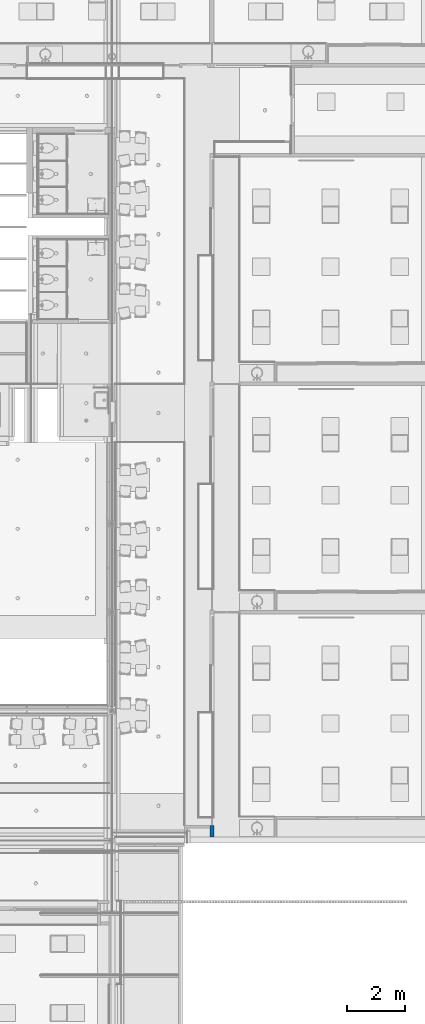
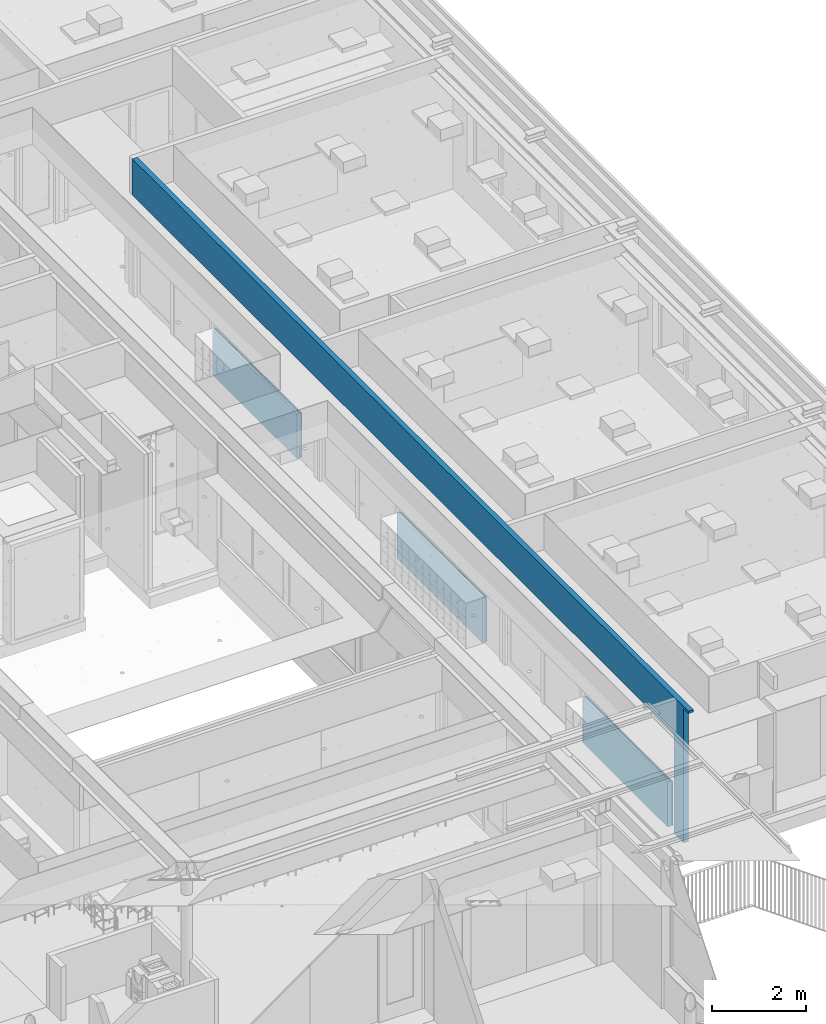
# One storey, part 31 of 260: 1 wall, 15 openings.
"""IFC2X3 building model written with IfcOpenShell, lengths in millimetres."""

from ifc_helpers import new_model, entity, si_unit, converted_unit, derived_unit, money_unit, direction, frame, origin_with_axes, place, context, subcontext, project, spatial, faceted_brep, material, type_object, element, save


model = new_model("IFC2X3")

# Units and contexts
model_context = context("Model", 3, precision=0.01, world=origin_with_axes(), true_north=direction((0.0, 1.0)))
plan_context = context("Plan", 3, precision=0.01, world=origin_with_axes(), true_north=direction((0.0, 1.0)))
body_context = subcontext(model_context, "Body", "Model", "MODEL_VIEW")
ifc_project = project(units=[si_unit("LENGTHUNIT", "METRE", prefix="MILLI"), si_unit("AREAUNIT", "SQUARE_METRE"), si_unit("VOLUMEUNIT", "CUBIC_METRE"), converted_unit("PLANEANGLEUNIT", "DEGREE", entity("IfcPlaneAngleMeasure", 0.0174532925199), si_unit("PLANEANGLEUNIT", "RADIAN"), dimensions=[0, 0, 0, 0, 0, 0, 0]), money_unit("EUR"), converted_unit("TIMEUNIT", "Year", entity("IfcTimeMeasure", 31556926.0), si_unit("TIMEUNIT", "SECOND"), dimensions=[0, 0, 1, 0, 0, 0, 0]), si_unit("MASSUNIT", "GRAM", prefix="KILO"), si_unit("THERMODYNAMICTEMPERATUREUNIT", "DEGREE_CELSIUS"), si_unit("LUMINOUSINTENSITYUNIT", "LUMEN"), si_unit("ENERGYUNIT", "JOULE", prefix="MEGA"), derived_unit("THERMALCONDUCTANCEUNIT", [(si_unit("POWERUNIT", "WATT"), 1), (si_unit("LENGTHUNIT", "METRE"), -1), (si_unit("THERMODYNAMICTEMPERATUREUNIT", "KELVIN"), -1)]), derived_unit("SPECIFICHEATCAPACITYUNIT", [(si_unit("ENERGYUNIT", "JOULE"), 1), (si_unit("MASSUNIT", "GRAM", prefix="KILO"), -1), (si_unit("THERMODYNAMICTEMPERATUREUNIT", "KELVIN"), -1)]), derived_unit("MASSDENSITYUNIT", [(si_unit("MASSUNIT", "GRAM", prefix="KILO"), 1), (si_unit("VOLUMEUNIT", "CUBIC_METRE"), -1)])], contexts=[model_context, plan_context])

# Site, building, storey
site_placement = place(None, origin_with_axes())
site = spatial("IfcSite", under=ifc_project, at=site_placement, Name="Site", CompositionType="ELEMENT")
building_placement = place(site_placement, origin_with_axes())
building = spatial("IfcBuilding", under=site, at=building_placement, Name="Naam gebouw", CompositionType="ELEMENT")
storey_placement = place(building_placement, frame((0.0, 0.0, 3960.0), z_axis=(0.0, 0.0, 1.0), x_axis=(1.0, 0.0, 0.0)))
storey = spatial("IfcBuildingStorey", under=building, at=storey_placement, Name="verdieping", CompositionType="ELEMENT", Elevation=3960.0)

# Wall, openings
ifc_material = material(Name="ALG - LICHTE SCHEIDINGSWAND")
wall_type = type_object("IfcWallType", Name="ALG LSW 125 125", PredefinedType="NOTDEFINED")
wall_placement = place(storey_placement, frame((48075.0, 12200.0000472, 0.0), z_axis=(0.0, 0.0, 1.0), x_axis=(0.0, 1.0, 0.0)))
wall = element("IfcWall", 1, at=wall_placement, inside=storey, type_object=wall_type, material=ifc_material, Name="22_GF 125 ECO DGS/2.75.2A", context=body_context, shape_type="Brep", body=[
    faceted_brep([(12305.4999528, 12.0, 1175.0), (8655.50135358, 12.0, 1175.0), (8655.50135358, 12.0, 0.0), (12305.4999528, 12.0, 0.0), (8665.49995276, 52.5, 1175.0), (8665.49995276, 21.9985991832, 1175.0), (12305.4999528, 52.5, 1175.0), (8665.49995276, 21.9985991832, 0.0), (12283.3930985, 68.9985991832, 0.0), (12305.3930985, 68.9985991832, 0.0), (12305.3930985, 125.0, 0.0), (12305.4999528, 125.0, 0.0), (8665.49995276, 125.0, 0.0), (12283.3930985, 125.0, 0.0), (12305.4999528, 125.0, 1200.0), (12305.4999528, 52.5, 1200.0), (8665.49995276, 52.5, 1178.0), (8665.49995276, 72.5, 1178.0), (8665.49995276, 125.0, 1178.0), (8643.49995276, 52.5, 1178.0), (8643.49995276, 52.5, 1200.0), (12283.3930985, 68.9985991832, 1178.0), (12305.3930985, 68.9985991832, 1178.0), (12305.3930985, 125.0, 1200.0), (12305.3930985, 72.5, 1178.0), (12305.3930985, 72.5, 1200.0), (12283.3930985, 125.0, 1178.0), (12283.3930985, 72.5, 1178.0), (8643.49995276, 72.5, 1200.0), (8643.49995276, 72.5, 1178.0)], [[[0, 1, 2, 3]], [[4, 5, 1, 0, 6]], [[7, 2, 1, 5]], [[8, 9, 10, 11, 3, 2, 7, 12, 13]], [[11, 14, 15, 6, 0, 3]], [[5, 4, 16, 17, 18, 12, 7]], [[19, 16, 4, 6, 15, 20]], [[9, 8, 21, 22]], [[23, 10, 9, 22, 24, 25]], [[11, 10, 23, 14]], [[12, 18, 26, 13]], [[13, 26, 27, 21, 8]], [[25, 28, 20, 15, 14, 23]], [[19, 29, 17, 16]], [[18, 17, 27, 26]], [[20, 28, 29, 19]], [[27, 24, 22, 21]], [[28, 25, 24, 27, 17, 29]]]),
    faceted_brep([(16580.5013536, 12.0, 0.0), (20230.4999528, 12.0, 0.0), (20230.4999528, 12.0, 1175.0), (16580.5013536, 12.0, 1175.0), (16590.4999528, 21.9985991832, 0.0), (16590.4999528, 125.0, 0.0), (20208.4999528, 125.0, 0.0), (20208.4999528, 68.9985991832, 0.0), (20230.4999528, 68.9985991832, 0.0), (20230.4999528, 68.9985991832, 1178.0), (20230.4999528, 72.5, 1178.0), (20230.4999528, 72.5, 1200.0), (20230.4999528, 52.5, 1200.0), (20230.4999528, 52.5, 1175.0), (16590.4999528, 52.5, 1175.0), (16590.4999528, 21.9985991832, 1175.0), (16590.4999528, 52.5, 1178.0), (16590.4999528, 72.5, 1178.0), (16590.4999528, 125.0, 1178.0), (20208.4999528, 125.0, 1178.0), (20208.4999528, 72.5, 1178.0), (20208.4999528, 68.9985991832, 1178.0), (16568.4999528, 72.5, 1178.0), (16568.4999528, 72.5, 1200.0), (16568.4999528, 52.5, 1200.0), (16568.4999528, 52.5, 1178.0)], [[[0, 1, 2, 3]], [[0, 4, 5, 6, 7, 8, 1]], [[8, 9, 10, 11, 12, 13, 2, 1]], [[2, 13, 14, 15, 3]], [[3, 15, 4, 0]], [[5, 4, 15, 14, 16, 17, 18]], [[18, 19, 6, 5]], [[6, 19, 20, 21, 7]], [[21, 9, 8, 7]], [[20, 10, 9, 21]], [[10, 20, 17, 22, 23, 11]], [[24, 12, 11, 23]], [[12, 24, 25, 16, 14, 13]], [[17, 16, 25, 22]], [[18, 17, 20, 19]], [[24, 23, 22, 25]]]),
    faceted_brep([(730.343674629, 12.0, 1175.0), (718.499952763, 0.156278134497, 1175.0), (718.499952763, 0.0, 1175.0), (730.343674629, 12.0, 0.0), (718.499952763, 0.156278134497, 0.0), (718.499952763, 0.0, 0.0)], [[[0, 1, 2]], [[1, 0, 3, 4]], [[2, 1, 4, 5]], [[5, 3, 0, 2]], [[3, 5, 4]]]),
    faceted_brep([(730.343674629, 12.0, 0.0), (4380.49995276, 12.0, 0.0), (4380.49995276, 12.0, 1175.0), (730.343674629, 12.0, 1175.0), (4380.34227381, 125.0, 0.0), (4380.49995276, 125.0, 0.0), (740.342273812, 21.9985991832, 0.0), (740.342273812, 125.0, 0.0), (4358.34227381, 125.0, 0.0), (4358.34227381, 68.9985991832, 0.0), (4380.34227381, 68.9985991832, 0.0), (4380.49995276, 52.5, 1200.0), (4380.49995276, 52.5, 1175.0), (4380.49995276, 125.0, 1178.0), (4380.49995276, 72.5, 1178.0), (4380.49995276, 72.5, 1200.0), (740.342273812, 52.5, 1175.0), (740.342273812, 21.9985991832, 1175.0), (4380.34227381, 125.0, 1178.0), (740.342273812, 52.5, 1178.0), (740.342273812, 72.5, 1178.0), (740.342273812, 125.0, 1178.0), (4358.34227381, 125.0, 1178.0), (4358.34227381, 72.5, 1178.0), (4358.34227381, 68.9985991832, 1178.0), (4380.34227381, 68.9985991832, 1178.0), (4380.34227381, 72.5, 1178.0), (718.499952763, 52.5, 1200.0), (718.499952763, 52.5, 1178.0), (718.499952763, 72.5, 1200.0), (718.499952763, 72.5, 1178.0)], [[[0, 1, 2, 3]], [[4, 5, 1, 0, 6, 7, 8, 9, 10]], [[11, 12, 2, 1, 5, 13, 14, 15]], [[3, 2, 12, 16, 17]], [[6, 0, 3, 17]], [[18, 13, 5, 4]], [[19, 20, 21, 7, 6, 17, 16]], [[8, 7, 21, 22]], [[8, 22, 23, 24, 9]], [[25, 10, 9, 24]], [[18, 4, 10, 25, 26]], [[16, 12, 11, 27, 28, 19]], [[26, 14, 13, 18]], [[29, 15, 14, 26, 23, 20, 30]], [[27, 11, 15, 29]], [[20, 19, 28, 30]], [[22, 21, 20, 23]], [[24, 23, 26, 25]], [[27, 29, 30, 28]]]),
    faceted_brep([(59.9937207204, 0.0, 0.0), (460.000027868, 0.0, 0.0), (460.000027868, 0.0, 2600.0), (460.000027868, 0.0, 2612.0), (23637.4999528, 0.0, 2612.0), (23637.4999528, 0.0, 3560.0), (-150.000009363, 0.0, 3560.0), (-150.000011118, 0.0, 3499.99997098), (59.8374336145, 0.0, 3499.99997098), (59.9937207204, 125.0, 0.0), (460.000027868, 125.0, 0.0), (460.000027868, 125.0, 2600.0), (460.000027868, 125.0, 2612.0), (23637.4999528, 125.0, 2612.0), (23637.4999528, 125.0, 3560.0), (-150.000009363, 125.0, 3560.0), (-150.000011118, 125.0, 3499.99997098), (59.8374336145, 125.0, 3499.99997098)], [[[0, 1, 2, 3, 4, 5, 6, 7, 8]], [[0, 9, 10, 1]], [[1, 10, 11, 2]], [[11, 12, 3, 2]], [[4, 3, 12, 13]], [[5, 4, 13, 14]], [[6, 5, 14, 15]], [[7, 6, 15, 16]], [[8, 7, 16, 17]], [[0, 8, 17, 9]], [[15, 14, 13, 12, 11, 10, 9, 17, 16]]]),
])
opening_1_placement = place(wall_placement, frame((23699.9999528, 0.0, 0.0), z_axis=(0.0, 0.0, 1.0), x_axis=(1.0, 0.0, 0.0)))
element("IfcOpeningElement", 2, at=opening_1_placement, cuts=wall, Name="32_-", context=body_context, shape_type="Brep", body=[
    faceted_brep([(-69.5, 132.0, 0.0), (-69.5, -7.00000000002, 0.0), (-69.5, -7.00000000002, 2600.0), (-69.5, 132.0, 2600.0), (69.5, 132.0, 0.0), (69.5, 132.0, 2600.0)], [[[0, 1, 2, 3]], [[1, 0, 4]], [[2, 1, 4, 5]], [[5, 3, 2]], [[0, 3, 5, 4]]]),
])
opening_2_placement = place(wall_placement, frame((19314.9999528, 0.0, 1200.0), z_axis=(0.0, 0.0, 1.0), x_axis=(1.0, 0.0, 0.0)))
element("IfcOpeningElement", 3, at=opening_2_placement, cuts=wall, Name="31_11.01", context=body_context, shape_type="Brep", body=[
    faceted_brep([(915.5, -125.0, 1400.0), (915.5, -125.0, 0.0), (915.5, 72.5, 0.0), (915.5, 72.5, 1400.0), (-915.5, -125.0, 1400.0), (-915.5, -125.0, 0.0), (-915.5, 72.5, 0.0), (-915.5, 72.5, 1400.0)], [[[0, 1, 2, 3]], [[0, 4, 5, 1]], [[1, 5, 6, 2]], [[3, 2, 6, 7]], [[4, 0, 3, 7]], [[5, 4, 7, 6]]]),
    faceted_brep([(915.5, 250.0, 0.0), (915.5, 250.0, 1400.0), (915.5, 72.5, 1400.0), (915.5, 72.5, 0.0), (-915.5, 250.0, 0.0), (-915.5, 250.0, 1400.0), (-915.5, 72.5, 1400.0), (-915.5, 72.5, 0.0)], [[[0, 1, 2, 3]], [[0, 4, 5, 1]], [[1, 5, 6, 2]], [[3, 2, 6, 7]], [[4, 0, 3, 7]], [[5, 4, 7, 6]]]),
])
opening_3_placement = place(wall_placement, frame((16206.4999528, 0.0, 0.0), z_axis=(0.0, 0.0, 1.0), x_axis=(1.0, 0.0, 0.0)))
element("IfcOpeningElement", 4, at=opening_3_placement, cuts=wall, Name="32_10.01", context=body_context, shape_type="Brep", body=[
    faceted_brep([(362.0, -125.0, 2600.0), (362.0, -125.0, 0.0), (362.0, 72.5, 0.0), (362.0, 72.5, 2600.0), (-362.0, -125.0, 2600.0), (-362.0, -125.0, 0.0), (-362.0, 72.5, 0.0), (-362.0, 72.5, 2600.0)], [[[0, 1, 2, 3]], [[0, 4, 5, 1]], [[1, 5, 6, 2]], [[3, 2, 6, 7]], [[4, 0, 3, 7]], [[5, 4, 7, 6]]]),
    faceted_brep([(362.0, 250.0, 0.0), (362.0, 250.0, 2600.0), (362.0, 72.5, 2600.0), (362.0, 72.5, 0.0), (-362.0, 250.0, 0.0), (-362.0, 250.0, 2600.0), (-362.0, 72.5, 2600.0), (-362.0, 72.5, 0.0)], [[[0, 1, 2, 3]], [[0, 4, 5, 1]], [[1, 5, 6, 2]], [[3, 2, 6, 7]], [[4, 0, 3, 7]], [[5, 4, 7, 6]]]),
])
opening_4_placement = place(wall_placement, frame((15774.9999528, 0.0, 0.0), z_axis=(0.0, 0.0, 1.0), x_axis=(1.0, 0.0, 0.0)))
element("IfcOpeningElement", 5, at=opening_4_placement, cuts=wall, Name="32_-", context=body_context, shape_type="Brep", body=[
    faceted_brep([(69.5, -132.0, 2600.0), (69.5, -132.0, 0.0), (69.5, 132.0, 0.0), (69.5, 132.0, 2600.0), (-69.5, -132.0, 2600.0), (-69.5, -132.0, 0.0), (-69.5, 132.0, 0.0), (-69.5, 132.0, 2600.0)], [[[0, 1, 2, 3]], [[0, 4, 5, 1]], [[1, 5, 6, 2]], [[3, 2, 6, 7]], [[4, 0, 3, 7]], [[5, 4, 7, 6]]]),
])
opening_5_placement = place(wall_placement, frame((11389.9999528, 0.0, 1200.0), z_axis=(0.0, 0.0, 1.0), x_axis=(1.0, 0.0, 0.0)))
element("IfcOpeningElement", 6, at=opening_5_placement, cuts=wall, Name="31_11.01", context=body_context, shape_type="Brep", body=[
    faceted_brep([(915.5, -125.0, 1400.0), (915.5, -125.0, 0.0), (915.5, 72.5, 0.0), (915.5, 72.5, 1400.0), (-915.5, -125.0, 1400.0), (-915.5, -125.0, 0.0), (-915.5, 72.5, 0.0), (-915.5, 72.5, 1400.0)], [[[0, 1, 2, 3]], [[0, 4, 5, 1]], [[1, 5, 6, 2]], [[3, 2, 6, 7]], [[4, 0, 3, 7]], [[5, 4, 7, 6]]]),
    faceted_brep([(915.5, 250.0, 0.0), (915.5, 250.0, 1400.0), (915.5, 72.5, 1400.0), (915.5, 72.5, 0.0), (-915.5, 250.0, 0.0), (-915.5, 250.0, 1400.0), (-915.5, 72.5, 1400.0), (-915.5, 72.5, 0.0)], [[[0, 1, 2, 3]], [[0, 4, 5, 1]], [[1, 5, 6, 2]], [[3, 2, 6, 7]], [[4, 0, 3, 7]], [[5, 4, 7, 6]]]),
])
opening_6_placement = place(wall_placement, frame((8281.49995276, 0.0, 0.0), z_axis=(0.0, 0.0, 1.0), x_axis=(1.0, 0.0, 0.0)))
element("IfcOpeningElement", 7, at=opening_6_placement, cuts=wall, Name="32_10.01", context=body_context, shape_type="Brep", body=[
    faceted_brep([(362.0, -125.0, 2600.0), (362.0, -125.0, 0.0), (362.0, 72.5, 0.0), (362.0, 72.5, 2600.0), (-362.0, -125.0, 2600.0), (-362.0, -125.0, 0.0), (-362.0, 72.5, 0.0), (-362.0, 72.5, 2600.0)], [[[0, 1, 2, 3]], [[0, 4, 5, 1]], [[1, 5, 6, 2]], [[3, 2, 6, 7]], [[4, 0, 3, 7]], [[5, 4, 7, 6]]]),
    faceted_brep([(362.0, 250.0, 0.0), (362.0, 250.0, 2600.0), (362.0, 72.5, 2600.0), (362.0, 72.5, 0.0), (-362.0, 250.0, 0.0), (-362.0, 250.0, 2600.0), (-362.0, 72.5, 2600.0), (-362.0, 72.5, 0.0)], [[[0, 1, 2, 3]], [[0, 4, 5, 1]], [[1, 5, 6, 2]], [[3, 2, 6, 7]], [[4, 0, 3, 7]], [[5, 4, 7, 6]]]),
])
opening_7_placement = place(wall_placement, frame((7849.99995276, 0.0, 0.0), z_axis=(0.0, 0.0, 1.0), x_axis=(1.0, 0.0, 0.0)))
element("IfcOpeningElement", 8, at=opening_7_placement, cuts=wall, Name="32_-", context=body_context, shape_type="Brep", body=[
    faceted_brep([(69.5, -132.0, 2600.0), (69.5, -132.0, 0.0), (69.5, 132.0, 0.0), (69.5, 132.0, 2600.0), (-69.5, -132.0, 2600.0), (-69.5, -132.0, 0.0), (-69.5, 132.0, 0.0), (-69.5, 132.0, 2600.0)], [[[0, 1, 2, 3]], [[0, 4, 5, 1]], [[1, 5, 6, 2]], [[3, 2, 6, 7]], [[4, 0, 3, 7]], [[5, 4, 7, 6]]]),
])
opening_8_placement = place(wall_placement, frame((3464.99995276, 0.0, 1200.0), z_axis=(0.0, 0.0, 1.0), x_axis=(1.0, 0.0, 0.0)))
element("IfcOpeningElement", 9, at=opening_8_placement, cuts=wall, Name="31_11.01", context=body_context, shape_type="Brep", body=[
    faceted_brep([(915.5, -125.0, 1400.0), (915.5, -125.0, 0.0), (915.5, 72.5, 0.0), (915.5, 72.5, 1400.0), (-915.5, -125.0, 1400.0), (-915.5, -125.0, 0.0), (-915.5, 72.5, 0.0), (-915.5, 72.5, 1400.0)], [[[0, 1, 2, 3]], [[0, 4, 5, 1]], [[1, 5, 6, 2]], [[3, 2, 6, 7]], [[4, 0, 3, 7]], [[5, 4, 7, 6]]]),
    faceted_brep([(915.5, 250.0, 0.0), (915.5, 250.0, 1400.0), (915.5, 72.5, 1400.0), (915.5, 72.5, 0.0), (-915.5, 250.0, 0.0), (-915.5, 250.0, 1400.0), (-915.5, 72.5, 1400.0), (-915.5, 72.5, 0.0)], [[[0, 1, 2, 3]], [[0, 4, 5, 1]], [[1, 5, 6, 2]], [[3, 2, 6, 7]], [[4, 0, 3, 7]], [[5, 4, 7, 6]]]),
])
opening_9_placement = place(wall_placement, frame((589.249990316, 0.0, 0.0), z_axis=(0.0, 0.0, 1.0), x_axis=(1.0, 0.0, 0.0)))
element("IfcOpeningElement", 10, at=opening_9_placement, cuts=wall, Name="32_10.06", context=body_context, shape_type="Brep", body=[
    faceted_brep([(129.249962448, -125.0, 2600.0), (129.249962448, -125.0, 0.0), (129.249962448, 72.5, 0.0), (129.249962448, 72.5, 2600.0), (-129.249962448, -125.0, 2600.0), (-129.249962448, -125.0, 0.0), (-129.249962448, 72.5, 0.0), (-129.249962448, 72.5, 2600.0)], [[[0, 1, 2, 3]], [[0, 4, 5, 1]], [[1, 5, 6, 2]], [[3, 2, 6, 7]], [[4, 0, 3, 7]], [[5, 4, 7, 6]]]),
    faceted_brep([(129.249962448, 250.0, 0.0), (129.249962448, 250.0, 2600.0), (129.249962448, 72.5, 2600.0), (129.249962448, 72.5, 0.0), (-129.249962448, 250.0, 0.0), (-129.249962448, 250.0, 2600.0), (-129.249962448, 72.5, 2600.0), (-129.249962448, 72.5, 0.0)], [[[0, 1, 2, 3]], [[0, 4, 5, 1]], [[1, 5, 6, 2]], [[3, 2, 6, 7]], [[4, 0, 3, 7]], [[5, 4, 7, 6]]]),
])
opening_10_placement = place(wall_placement, frame((17483.9999528, 0.0, 1200.0), z_axis=(0.0, 0.0, 1.0), x_axis=(1.0, 0.0, 0.0)))
element("IfcOpeningElement", 11, at=opening_10_placement, cuts=wall, Name="31_11.01", context=body_context, shape_type="Brep", body=[
    faceted_brep([(915.5, -125.0, 1400.0), (915.5, -125.0, 0.0), (915.5, 72.5, 0.0), (915.5, 72.5, 1400.0), (-915.5, -125.0, 1400.0), (-915.5, -125.0, 0.0), (-915.5, 72.5, 0.0), (-915.5, 72.5, 1400.0)], [[[0, 1, 2, 3]], [[0, 4, 5, 1]], [[1, 5, 6, 2]], [[3, 2, 6, 7]], [[4, 0, 3, 7]], [[5, 4, 7, 6]]]),
    faceted_brep([(915.5, 250.0, 0.0), (915.5, 250.0, 1400.0), (915.5, 72.5, 1400.0), (915.5, 72.5, 0.0), (-915.5, 250.0, 0.0), (-915.5, 250.0, 1400.0), (-915.5, 72.5, 1400.0), (-915.5, 72.5, 0.0)], [[[0, 1, 2, 3]], [[0, 4, 5, 1]], [[1, 5, 6, 2]], [[3, 2, 6, 7]], [[4, 0, 3, 7]], [[5, 4, 7, 6]]]),
])
opening_11_placement = place(wall_placement, frame((9558.99995276, 0.0, 1200.0), z_axis=(0.0, 0.0, 1.0), x_axis=(1.0, 0.0, 0.0)))
element("IfcOpeningElement", 12, at=opening_11_placement, cuts=wall, Name="31_11.01", context=body_context, shape_type="Brep", body=[
    faceted_brep([(915.5, -125.0, 1400.0), (915.5, -125.0, 0.0), (915.5, 72.5, 0.0), (915.5, 72.5, 1400.0), (-915.5, -125.0, 1400.0), (-915.5, -125.0, 0.0), (-915.5, 72.5, 0.0), (-915.5, 72.5, 1400.0)], [[[0, 1, 2, 3]], [[0, 4, 5, 1]], [[1, 5, 6, 2]], [[3, 2, 6, 7]], [[4, 0, 3, 7]], [[5, 4, 7, 6]]]),
    faceted_brep([(915.5, 250.0, 0.0), (915.5, 250.0, 1400.0), (915.5, 72.5, 1400.0), (915.5, 72.5, 0.0), (-915.5, 250.0, 0.0), (-915.5, 250.0, 1400.0), (-915.5, 72.5, 1400.0), (-915.5, 72.5, 0.0)], [[[0, 1, 2, 3]], [[0, 4, 5, 1]], [[1, 5, 6, 2]], [[3, 2, 6, 7]], [[4, 0, 3, 7]], [[5, 4, 7, 6]]]),
])
opening_12_placement = place(wall_placement, frame((1633.99995276, 0.0, 1200.0), z_axis=(0.0, 0.0, 1.0), x_axis=(1.0, 0.0, 0.0)))
element("IfcOpeningElement", 13, at=opening_12_placement, cuts=wall, Name="31_11.01", context=body_context, shape_type="Brep", body=[
    faceted_brep([(915.5, -125.0, 1400.0), (915.5, -125.0, 0.0), (915.5, 72.5, 0.0), (915.5, 72.5, 1400.0), (-915.5, -125.0, 1400.0), (-915.5, -125.0, 0.0), (-915.5, 72.5, 0.0), (-915.5, 72.5, 1400.0)], [[[0, 1, 2, 3]], [[0, 4, 5, 1]], [[1, 5, 6, 2]], [[3, 2, 6, 7]], [[4, 0, 3, 7]], [[5, 4, 7, 6]]]),
    faceted_brep([(915.5, 250.0, 0.0), (915.5, 250.0, 1400.0), (915.5, 72.5, 1400.0), (915.5, 72.5, 0.0), (-915.5, 250.0, 0.0), (-915.5, 250.0, 1400.0), (-915.5, 72.5, 1400.0), (-915.5, 72.5, 0.0)], [[[0, 1, 2, 3]], [[0, 4, 5, 1]], [[1, 5, 6, 2]], [[3, 2, 6, 7]], [[4, 0, 3, 7]], [[5, 4, 7, 6]]]),
])
opening_13_placement = place(wall_placement, frame((21930.4999528, 0.0, 0.0), z_axis=(0.0, 0.0, 1.0), x_axis=(1.0, 0.0, 0.0)))
element("IfcOpeningElement", 14, at=opening_13_placement, cuts=wall, Name="32_06.02", context=body_context, shape_type="Brep", body=[
    faceted_brep([(1700.0, -132.0, 2599.99996583), (1700.0, -132.0, 0.0), (1700.0, 132.0, 0.0), (1700.0, 132.0, 2599.99996583), (-1700.0, -132.0, 2599.99996583), (-1700.0, -132.0, 0.0), (-1700.0, 132.0, 0.0), (-1700.0, 132.0, 2599.99996583)], [[[0, 1, 2, 3]], [[0, 4, 5, 1]], [[1, 5, 6, 2]], [[3, 2, 6, 7]], [[4, 0, 3, 7]], [[5, 4, 7, 6]]]),
])
opening_14_placement = place(wall_placement, frame((14005.4999528, 0.0, 0.0), z_axis=(0.0, 0.0, 1.0), x_axis=(1.0, 0.0, 0.0)))
element("IfcOpeningElement", 15, at=opening_14_placement, cuts=wall, Name="32_06.02", context=body_context, shape_type="Brep", body=[
    faceted_brep([(1700.0, -132.0, 2599.99996583), (1700.0, -132.0, 0.0), (1700.0, 132.0, 0.0), (1700.0, 132.0, 2599.99996583), (-1700.0, -132.0, 2599.99996583), (-1700.0, -132.0, 0.0), (-1700.0, 132.0, 0.0), (-1700.0, 132.0, 2599.99996583)], [[[0, 1, 2, 3]], [[0, 4, 5, 1]], [[1, 5, 6, 2]], [[3, 2, 6, 7]], [[4, 0, 3, 7]], [[5, 4, 7, 6]]]),
])
opening_15_placement = place(wall_placement, frame((6080.49995276, 0.0, 0.0), z_axis=(0.0, 0.0, 1.0), x_axis=(1.0, 0.0, 0.0)))
element("IfcOpeningElement", 16, at=opening_15_placement, cuts=wall, Name="32_06.02", context=body_context, shape_type="Brep", body=[
    faceted_brep([(1700.0, -132.0, 2599.99996583), (1700.0, -132.0, 0.0), (1700.0, 132.0, 0.0), (1700.0, 132.0, 2599.99996583), (-1700.0, -132.0, 2599.99996583), (-1700.0, -132.0, 0.0), (-1700.0, 132.0, 0.0), (-1700.0, 132.0, 2599.99996583)], [[[0, 1, 2, 3]], [[0, 4, 5, 1]], [[1, 5, 6, 2]], [[3, 2, 6, 7]], [[4, 0, 3, 7]], [[5, 4, 7, 6]]]),
])

save(model, "model.ifc")
